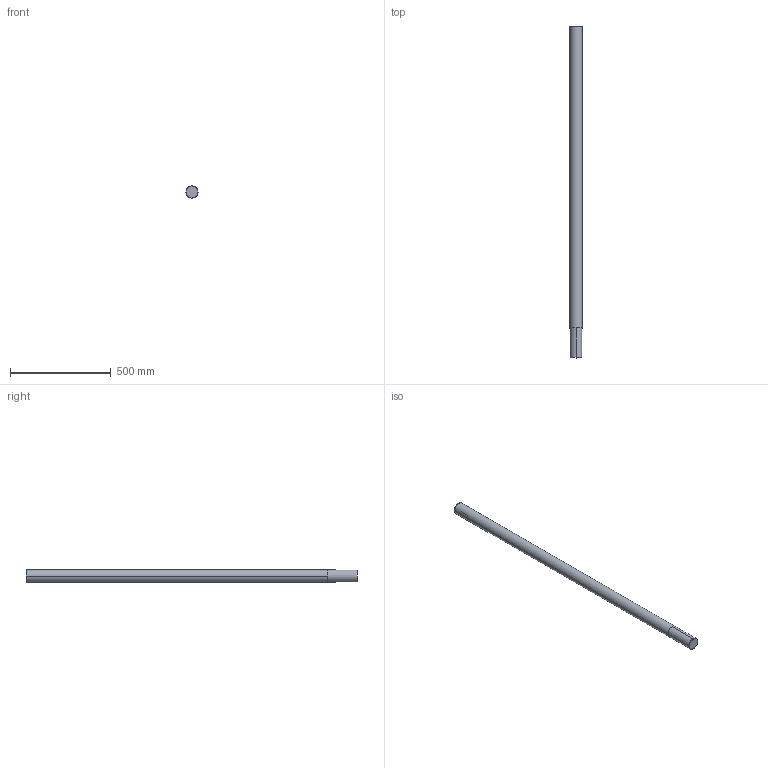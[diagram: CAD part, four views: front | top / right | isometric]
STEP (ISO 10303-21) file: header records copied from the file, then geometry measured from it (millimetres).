
FILE_DESCRIPTION((''),'2;1');
FILE_NAME('LINE-UP_SW0004','2025-07-01T09:10:55',('Piccioli'),(''),'CREO PARAMETRIC BY PTC INC, 2025010','CREO PARAMETRIC BY PTC INC, 2025010','');
FILE_SCHEMA(('CONFIG_CONTROL_DESIGN'));
Length unit declared in the file: millimetre
Products named in the file (1): LINE-UP_SW0004
Bounding box: 60 x 1650 x 60 mm (x, y, z)
Surface area: 326805 mm2 (no closed solid volume)
Topology: 0 solids, 8 shells, 19 faces, 112 edges, 100 vertices
Faces by surface type: cone 10, plane 5, cylinder 4
Entity records: 1449 total; most frequent: CARTESIAN_POINT 574, DIRECTION 180, ORIENTED_EDGE 126, EDGE_CURVE 112, VERTEX_POINT 100, AXIS2_PLACEMENT_3D 79, CIRCLE 60, B_SPLINE_CURVE_WITH_KNOTS 30
